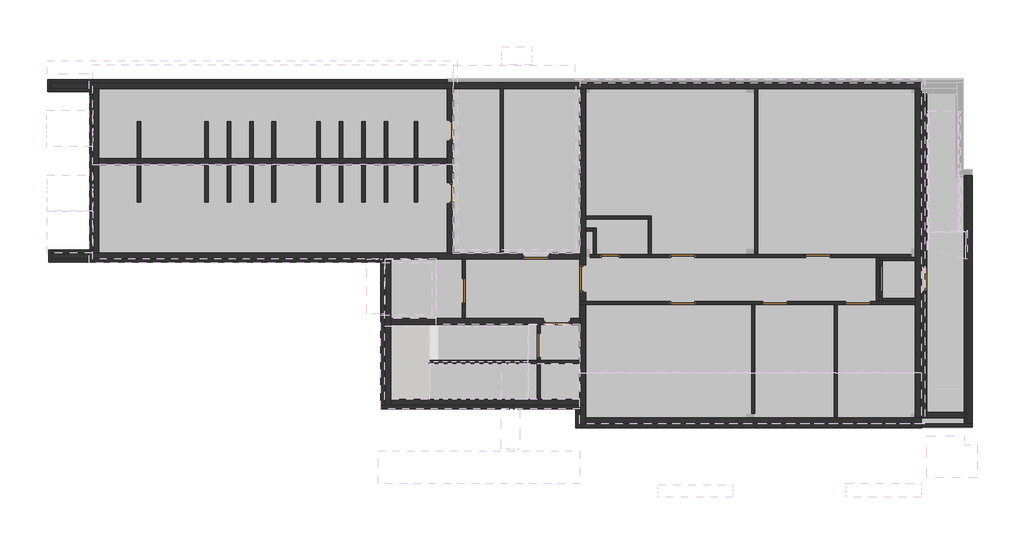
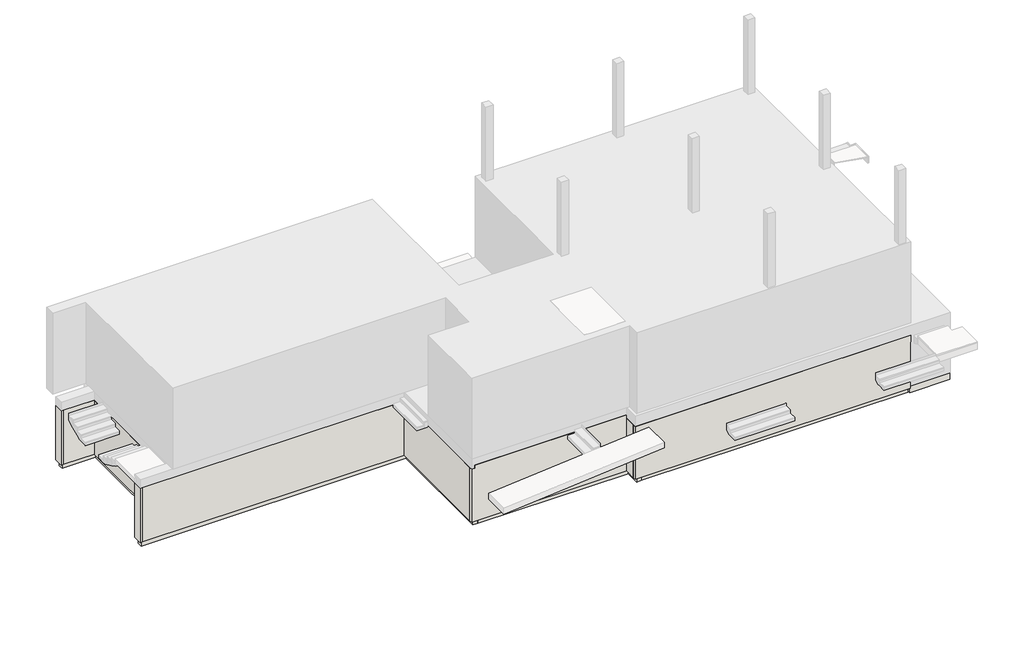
# One storey, part 1 of 3: 67 walls, 15 doors.
"""IFC4 building model written with IfcOpenShell, lengths in millimetres."""

from ifc_helpers import new_model, si_unit, frame, origin, place, context, project, spatial, polyline, outline, extrude, faceted_brep, transform, mapped, element, save
from components import door_13706d25, door_4d77744a, door_4864a00c, door_8b928317, door_d1c1a40c, door_2d09e85e, door_987bade7, door_4a9ce748

model = new_model("IFC4")

# Units and contexts
model_context = context("Model", 3, world=origin())
ifc_project = project(units=[si_unit("LENGTHUNIT", "METRE", prefix="MILLI")], contexts=[model_context])

# Site, building, storey
site = spatial("IfcSite", under=ifc_project)
building = spatial("IfcBuilding", under=site)
storey = spatial("IfcBuildingStorey", under=building, Name="Этаж -1", Elevation=-2700.0)

# Doors
placement = place(None, origin())
door_shape = door_13706d25(model_context)
element("IfcDoor", 1, ObjectType="(Dr)_ДУ(распашная)_1Ст_Прямоугольная : (Вн)_ДГ(0.92х2.1(h))", at=placement, inside=storey, context=model_context, shape_type="MappedRepresentation", body=[
    mapped(door_shape, transform((16170.0, 4019.9999983, -2700.0), x_axis=(0.0, 1.0, 0.0), y_axis=(-1.0, 0.0, 0.0), z_axis=(0.0, 0.0, 1.0))),
])
door_2_shape = door_4d77744a(model_context)
element("IfcDoor", 2, ObjectType="(Dr)_ДУ(распашная)_1Ст_Прямоугольная : (Вн)_ДГ(0.91х2.1(h))", at=placement, inside=storey, context=model_context, shape_type="MappedRepresentation", body=[
    mapped(door_2_shape, transform((14700.291724, 1798.9755306, -2700.0), x_axis=(0.0, 1.0, 0.0), y_axis=(-1.0, 0.0, 0.0), z_axis=(0.0, 0.0, 1.0))),
])
door_3_shape = door_4864a00c(model_context)
element("IfcDoor", 3, ObjectType="(Dr)_ДУ(распашная)_1Ст_Прямоугольная : (Вн)_ДГ(0.7х2.1(h))", at=placement, inside=storey, context=model_context, shape_type="MappedRepresentation", body=[
    mapped(door_3_shape, transform((11750.0, 8985.0, -2700.0), x_axis=(0.0, -1.0, 0.0), y_axis=(1.0, 0.0, 0.0), z_axis=(0.0, 0.0, 1.0))),
])
element("IfcDoor", 4, ObjectType="(Dr)_ДУ(распашная)_1Ст_Прямоугольная : (Вн)_ДГ(0.7х2.1(h))", at=placement, inside=storey, context=model_context, shape_type="MappedRepresentation", body=[
    mapped(door_3_shape, transform((11750.0, 6885.0, -2700.0), x_axis=(0.0, -1.0, 0.0), y_axis=(1.0, 0.0, 0.0), z_axis=(0.0, 0.0, 1.0))),
])
door_4_shape = door_8b928317(model_context)
element("IfcDoor", 5, ObjectType="(Dr)_ДУ(распашная)_1Ст_Прямоугольная : (Вн)_ДГ(0.92х2.1(h))", at=placement, inside=storey, context=model_context, shape_type="MappedRepresentation", body=[
    mapped(door_4_shape, transform((14610.0000393, 4780.0, -2700.0), x_axis=(-1.0, 0.0, 0.0), y_axis=(0.0, -1.0, 0.0), z_axis=(0.0, 0.0, 1.0))),
])
element("IfcDoor", 6, ObjectType="(Dr)_ДУ(распашная)_1Ст_Прямоугольная : (Вн)_ДГ(0.92х2.1(h))", at=placement, inside=storey, context=model_context, shape_type="MappedRepresentation", body=[
    mapped(door_4_shape, transform((15310.0, 2600.0, -2700.0), x_axis=(-1.0, 0.0, 0.0), y_axis=(0.0, -1.0, 0.0), z_axis=(0.0, 0.0, 1.0))),
])
door_5_shape = door_d1c1a40c(model_context)
element("IfcDoor", 7, ObjectType="(Dr)_ДУ(распашная)_1Ст_Прямоугольная : (Вн)_ДГ(0.91х2.1(h))", at=placement, inside=storey, context=model_context, shape_type="MappedRepresentation", body=[
    mapped(door_5_shape, transform((19505.1167243, 4780.0000004, -2700.0), x_axis=(1.0, 0.0, 0.0), y_axis=(0.0, 1.0, 0.0), z_axis=(0.0, 0.0, 1.0))),
])
element("IfcDoor", 8, ObjectType="(Dr)_ДУ(распашная)_1Ст_Прямоугольная : (Вн)_ДГ(0.91х2.1(h))", at=placement, inside=storey, context=model_context, shape_type="MappedRepresentation", body=[
    mapped(door_2_shape, transform((22589.9990554, 3219.9999994, -2700.0), x_axis=(-1.0, 0.0, 0.0), y_axis=(0.0, -1.0, 0.0), z_axis=(0.0, 0.0, 1.0))),
])
element("IfcDoor", 9, ObjectType="(Dr)_ДУ(распашная)_1Ст_Прямоугольная : (Вн)_ДГ(0.91х2.1(h))", at=placement, inside=storey, context=model_context, shape_type="MappedRepresentation", body=[
    mapped(door_2_shape, transform((25360.0, 3219.9999994, -2700.0), x_axis=(-1.0, 0.0, 0.0), y_axis=(0.0, -1.0, 0.0), z_axis=(0.0, 0.0, 1.0))),
])
element("IfcDoor", 10, ObjectType="(Dr)_ДУ(распашная)_1Ст_Прямоугольная : (Вн)_ДГ(0.91х2.1(h))", at=placement, inside=storey, context=model_context, shape_type="MappedRepresentation", body=[
    mapped(door_2_shape, transform((19505.1167243, 3219.9999994, -2700.0), x_axis=(-1.0, 0.0, 0.0), y_axis=(0.0, -1.0, 0.0), z_axis=(0.0, 0.0, 1.0))),
])
element("IfcDoor", 11, ObjectType="(Dr)_ДУ(распашная)_1Ст_Прямоугольная : (Вн)_ДГ(0.91х2.1(h))", at=placement, inside=storey, context=model_context, shape_type="MappedRepresentation", body=[
    mapped(door_2_shape, transform((24025.1167243, 4780.0000004, -2700.0), x_axis=(1.0, 0.0, 0.0), y_axis=(0.0, 1.0, 0.0), z_axis=(0.0, 0.0, 1.0))),
])
element("IfcDoor", 12, ObjectType="(Dr)_ДУ(распашная)_1Ст_Прямоугольная : (Вн)_ДГ(0.91х2.1(h))", at=placement, inside=storey, context=model_context, shape_type="MappedRepresentation", body=[
    mapped(door_2_shape, transform((12201.0801097, 3625.0, -2700.0), x_axis=(0.0, -1.0, 0.0), y_axis=(1.0, 0.0, 0.0), z_axis=(0.0, 0.0, 1.0))),
])
door_6_shape = door_2d09e85e(model_context)
element("IfcDoor", 13, ObjectType="(Dr)_ДУ(распашная)_1Ст_Прямоугольная : (Нр)_ДГ(0.89х2.1(h))", at=placement, inside=storey, context=model_context, shape_type="MappedRepresentation", body=[
    mapped(door_6_shape, transform((27559.9990278, 4019.9999671, -2700.0), x_axis=(0.0, -1.0, 0.0), y_axis=(1.0, 0.0, 0.0), z_axis=(0.0, 0.0, 1.0))),
])
door_7_shape = door_987bade7(model_context)
element("IfcDoor", 14, ObjectType="(Dr)_ДУ(распашная)_1Ст_Прямоугольная : (Вн)_ДГ(0.92х2.1(h))", at=placement, inside=storey, context=model_context, shape_type="MappedRepresentation", body=[
    mapped(door_7_shape, transform((26120.0, 4020.0, -2700.0), x_axis=(0.0, -1.0, 0.0), y_axis=(1.0, 0.0, 0.0), z_axis=(0.0, 0.0, 1.0))),
])
door_8_shape = door_4a9ce748(model_context)
element("IfcDoor", 15, ObjectType="(Dr)_ДУ(распашная)_1Ст_Прямоугольная : (Вн)_ДГ(0.7х2.1(h))", at=placement, inside=storey, context=model_context, shape_type="MappedRepresentation", body=[
    mapped(door_8_shape, transform((17090.0000523, 4780.0000004, -2700.0), x_axis=(1.0, 0.0, 0.0), y_axis=(0.0, 1.0, 0.0), z_axis=(0.0, 0.0, 1.0))),
])

# Walls
element("IfcWall", 16, ObjectType="(Нр).(Ут-100)", at=placement, inside=storey, context=model_context, shape_type="Brep", body=[
    faceted_brep([(-200.0, 10380.0000008, -2800.0), (-1599.9999755, 10380.0000008, -2800.0), (-1599.9999755, 10380.0000008, -400.0), (-200.0, 10380.0000008, -400.0), (-200.0, 10280.0000008, -2800.0), (-200.0, 10280.0000008, -400.0), (-300.0, 10280.0000008, -400.0), (-1599.9999755, 10280.0000008, -400.0), (-1599.9999755, 10280.0000008, -2800.0), (-300.0, 10280.0000008, -2800.0)], [[[0, 1, 2, 3]], [[4, 5, 6, 7, 8, 9]], [[1, 0, 4, 9, 8]], [[3, 2, 7, 6, 5]], [[2, 1, 8, 7]], [[0, 3, 5, 4]]]),
])
element("IfcWall", 17, ObjectType="(Нр).(Ут-100)", at=placement, inside=storey, context=model_context, shape_type="Brep", body=[
    faceted_brep([(-1599.9999755, 10280.0000008, -2800.0), (-1599.9999755, 10380.0000008, -2800.0), (-1599.9999755, 10580.0000008, -2800.0), (-1599.9999755, 10680.0000008, -2800.0), (-1599.9999755, 10680.0000008, -400.0), (-1599.9999755, 10580.0000008, -400.0), (-1599.9999755, 10380.0000008, -400.0), (-1599.9999755, 10280.0000008, -400.0), (-1699.9999755, 10280.0000008, -2800.0), (-1699.9999755, 10280.0000008, -400.0), (-1699.9999755, 10680.0000008, -400.0), (-1699.9999755, 10680.0000008, -2800.0)], [[[0, 1, 2, 3, 4, 5, 6, 7]], [[8, 9, 10, 11]], [[3, 2, 1, 0, 8, 11]], [[7, 6, 5, 4, 10, 9]], [[0, 7, 9, 8]], [[4, 3, 11, 10]]]),
])
element("IfcWall", 18, ObjectType="(Нр).(Ут-100)", at=placement, inside=storey, context=model_context, shape_type="SweptSolid", body=[
    extrude(outline(polyline([(11650.0, 10580.0000008), (-1599.9999755, 10580.0000008), (-1599.9999755, 10680.0000008), (11650.0, 10680.0000008), (11650.0, 10580.0000008)])), frame((0.0, 0.0, -2800.0), z_axis=(0.0, 0.0, 1.0), x_axis=(1.0, 0.0, 0.0)), (0.0, 0.0, 1.0), 2400.0),
])
element("IfcWall", 19, ObjectType="(Нр).(Ут-100)", at=placement, inside=storey, context=model_context, shape_type="SweptSolid", body=[
    extrude(outline(polyline([(-1569.8806043, 4680.0), (9550.291724, 4680.0), (9420.291724, 4580.0), (-1569.8806043, 4580.0), (-1569.8806043, 4680.0)])), frame((0.0, 0.0, -2800.0), z_axis=(0.0, 0.0, 1.0), x_axis=(1.0, 0.0, 0.0)), (0.0, 0.0, 1.0), 2400.0),
])
element("IfcWall", 20, ObjectType="(Нр).(Ут-100)", at=placement, inside=storey, context=model_context, shape_type="Brep", body=[
    faceted_brep([(-1569.8806043, 4580.0, -2800.0), (-1569.8806043, 4680.0, -2800.0), (-1569.8806043, 4880.0, -2800.0), (-1569.8806043, 4980.0, -2800.0), (-1569.8806043, 4980.0, -400.0), (-1569.8806043, 4880.0, -400.0), (-1569.8806043, 4680.0, -400.0), (-1569.8806043, 4580.0, -400.0), (-1669.8806043, 4580.0, -2800.0), (-1669.8806043, 4580.0, -400.0), (-1669.8806043, 4980.0, -400.0), (-1669.8806043, 4980.0, -2800.0)], [[[0, 1, 2, 3, 4, 5, 6, 7]], [[8, 9, 10, 11]], [[3, 2, 1, 0, 8, 11]], [[7, 6, 5, 4, 10, 9]], [[0, 7, 9, 8]], [[4, 3, 11, 10]]]),
])
element("IfcWall", 21, ObjectType="(Нр).(Ут-100)", at=placement, inside=storey, context=model_context, shape_type="Brep", body=[
    faceted_brep([(-1569.8806043, 4880.0, -2800.0), (-200.0, 4880.0, -2800.0), (-200.0, 4880.0, -400.0), (-1569.8806043, 4880.0, -400.0), (-1569.8806043, 4980.0, -2800.0), (-1569.8806043, 4980.0, -400.0), (-300.0, 4980.0, -400.0), (-200.0, 4980.0, -400.0), (-200.0, 4980.0, -2800.0), (-300.0, 4980.0, -2800.0)], [[[0, 1, 2, 3]], [[4, 5, 6, 7, 8, 9]], [[1, 0, 4, 9, 8]], [[3, 2, 7, 6, 5]], [[0, 3, 5, 4]], [[2, 1, 8, 7]]]),
])
element("IfcWall", 22, ObjectType="(Нр).(Ут-100)", at=placement, inside=storey, context=model_context, shape_type="SweptSolid", body=[
    extrude(outline(polyline([(-200.0, 10280.0000008), (-200.0, 4980.0), (-300.0, 4980.0), (-300.0, 10280.0000008), (-200.0, 10280.0000008)])), frame((0.0, 0.0, -2800.0), z_axis=(0.0, 0.0, 1.0), x_axis=(1.0, 0.0, 0.0)), (0.0, 0.0, 1.0), 2400.0),
])
element("IfcWall", 23, ObjectType="(Нр).(Ут-130)", at=placement, inside=storey, context=model_context, shape_type="Brep", body=[
    faceted_brep([(27492.4990554, -820.0, -2800.0), (16070.0, -820.0, -2800.0), (15940.0, -820.0, -2800.0), (15940.0, -820.0, -450.0), (16070.0, -820.0, -450.0), (27514.9990554, -820.0, -450.0), (27514.9990554, -820.0, -730.0), (27492.4990554, -820.0, -730.0), (27492.4990554, -950.0, -2800.0), (27492.4990554, -950.0, -730.0), (27514.9990554, -950.0, -730.0), (27514.9990554, -950.0, -450.0), (15940.0, -950.0, -450.0), (15940.0, -950.0, -2800.0)], [[[0, 1, 2, 3, 4, 5, 6, 7]], [[8, 9, 10, 11, 12, 13]], [[2, 1, 0, 8, 13]], [[5, 4, 3, 12, 11]], [[3, 2, 13, 12]], [[0, 7, 9, 8]], [[6, 10, 9, 7]], [[6, 5, 11, 10]]]),
])
element("IfcWall", 24, ObjectType="(Нр).(Ут-130)", at=placement, inside=storey, context=model_context, shape_type="Brep", body=[
    faceted_brep([(16070.0, -820.0, -2800.0), (16070.0, -200.0, -2800.0), (16070.0, -200.0, -450.0), (16070.0, -820.0, -450.0), (15940.0, -820.0, -2800.0), (15940.0, -820.0, -450.0), (15940.0, -200.0, -450.0), (15940.0, -200.0, -2800.0), (15940.0, -330.0, -2800.0)], [[[0, 1, 2, 3]], [[4, 5, 6, 7, 8]], [[1, 0, 4, 8, 7]], [[3, 2, 6, 5]], [[0, 3, 5, 4]], [[2, 1, 7, 6]]]),
])
element("IfcWall", 25, ObjectType="(Нр).(Ут-130)", at=placement, inside=storey, context=model_context, shape_type="Brep", body=[
    faceted_brep([(15940.0, -200.0, -2800.0), (9550.291724, -200.0, -2800.0), (9420.291724, -200.0, -2800.0), (9420.291724, -200.0, -450.0), (9550.291724, -200.0, -450.0), (9550.291724, -200.0, -300.0), (15940.0, -200.0, -300.0), (15940.0, -200.0, -450.0), (15940.0, -330.0, -2800.0), (15940.0, -330.0, -300.0), (9550.291724, -330.0, -300.0), (9550.291724, -330.0, -450.0), (9420.291724, -330.0, -450.0), (9420.291724, -330.0, -2800.0)], [[[0, 1, 2, 3, 4, 5, 6, 7]], [[8, 9, 10, 11, 12, 13]], [[2, 1, 0, 8, 13]], [[6, 5, 10, 9]], [[0, 7, 6, 9, 8]], [[3, 2, 13, 12]], [[5, 4, 11, 10]], [[11, 4, 3, 12]]]),
])
element("IfcWall", 26, ObjectType="(Нр).(Ут-130)", at=placement, inside=storey, context=model_context, shape_type="SweptSolid", body=[
    extrude(outline(polyline([(9550.291724, 4680.0), (9550.291724, -200.0), (9420.291724, -200.0), (9420.291724, 4580.0), (9550.291724, 4680.0)])), frame((0.0, 0.0, -2800.0), z_axis=(0.0, 0.0, 1.0), x_axis=(1.0, 0.0, 0.0)), (0.0, 0.0, 1.0), 2350.0),
])
element("IfcWall", 27, ObjectType="(Нр).(Ут-100)", at=placement, inside=storey, context=model_context, shape_type="Brep", body=[
    faceted_brep([(27269.9990554, 4730.0000004, -3000.0), (26070.0, 4730.0000004, -3000.0), (26070.0, 4730.0000004, -300.0), (27269.9990554, 4730.0000004, -300.0), (27269.9990554, 4630.0000004, -3000.0), (27269.9990554, 4630.0000004, -300.0), (26170.0, 4630.0000004, -300.0), (26070.0, 4630.0000004, -300.0), (26070.0, 4630.0000004, -3000.0), (26170.0, 4630.0000004, -3000.0)], [[[0, 1, 2, 3]], [[4, 5, 6, 7, 8, 9]], [[1, 0, 4, 9, 8]], [[3, 2, 7, 6, 5]], [[2, 1, 8, 7]], [[0, 3, 5, 4]]]),
])
element("IfcWall", 28, ObjectType="(Нр).(Ут-100)", at=placement, inside=storey, context=model_context, shape_type="Brep", body=[
    faceted_brep([(26070.0, 4630.0000004, -3000.0), (26070.0, 3269.9999994, -3000.0), (26070.0, 3269.9999994, -300.0), (26070.0, 4630.0000004, -300.0), (26070.0, 3560.0, -600.0), (26070.0, 3560.0, -2700.0), (26070.0, 4480.0, -2700.0), (26070.0, 4480.0, -600.0), (26170.0, 3269.9999994, -3000.0), (26170.0, 3369.9999994, -3000.0), (26170.0, 4630.0000004, -3000.0), (26170.0, 4630.0000004, -300.0), (26170.0, 3369.9999994, -300.0), (26170.0, 3269.9999994, -300.0), (26170.0, 3560.0, -2700.0), (26170.0, 3560.0, -600.0), (26170.0, 4480.0, -600.0), (26170.0, 4480.0, -2700.0)], [[[0, 1, 2, 3], [4, 5, 6, 7]], [[8, 9, 10, 11, 12, 13], [14, 15, 16, 17]], [[1, 0, 10, 9, 8]], [[3, 2, 13, 12, 11]], [[2, 1, 8, 13]], [[0, 3, 11, 10]], [[14, 5, 4, 15]], [[15, 4, 7, 16]], [[16, 7, 6, 17]], [[5, 14, 17, 6]]]),
])
element("IfcWall", 29, ObjectType="(Нр).(Ут-100)", at=placement, inside=storey, context=model_context, shape_type="SweptSolid", body=[
    extrude(outline(polyline([(27269.9990554, 3269.9999994), (26170.0, 3269.9999994), (26170.0, 3369.9999994), (27269.9990554, 3369.9999994), (27269.9990554, 3269.9999994)])), frame((0.0, 0.0, -3000.0), z_axis=(0.0, 0.0, 1.0), x_axis=(1.0, 0.0, 0.0)), (0.0, 0.0, 1.0), 2700.0),
])
element("IfcWall", 30, ObjectType="(Нр).(Ут-100)", at=placement, inside=storey, context=model_context, shape_type="SweptSolid", body=[
    extrude(outline(polyline([(27492.4990554, -820.0), (29169.9999881, -820.0), (29169.9999881, -920.0), (27492.4990554, -920.0), (27492.4990554, -820.0)])), frame((0.0, 0.0, -3000.0), z_axis=(0.0, 0.0, 1.0), x_axis=(1.0, 0.0, 0.0)), (0.0, 0.0, 1.0), 2070.0),
])
element("IfcWall", 31, ObjectType="(Вн).(Пг-100)", at=placement, inside=storey, context=model_context, shape_type="SweptSolid", body=[
    extrude(outline(polyline([(13413.779901, 4880.0), (13413.779901, 10380.0000008), (13513.779901, 10380.0000008), (13513.779901, 4880.0), (13413.779901, 4880.0)])), frame((0.0, 0.0, -3000.0), z_axis=(0.0, 0.0, 1.0), x_axis=(1.0, 0.0, 0.0)), (0.0, 0.0, 1.0), 2700.0),
])
element("IfcWall", 32, ObjectType="(Вн).(Пг-100)", at=placement, inside=storey, context=model_context, shape_type="Brep", body=[
    faceted_brep([(16270.0, 6029.9999983, -3000.0), (18350.0000523, 6029.9999983, -3000.0), (18450.0000523, 6029.9999983, -3000.0), (18450.0000523, 6029.9999983, -300.0), (18350.0000523, 6029.9999983, -300.0), (16270.0, 6029.9999983, -300.0), (16270.0, 6129.9999983, -3000.0), (16270.0, 6129.9999983, -300.0), (18450.0000523, 6129.9999983, -300.0), (18450.0000523, 6129.9999983, -3000.0)], [[[0, 1, 2, 3, 4, 5]], [[6, 7, 8, 9]], [[2, 1, 0, 6, 9]], [[5, 4, 3, 8, 7]], [[3, 2, 9, 8]], [[0, 5, 7, 6]]]),
])
element("IfcWall", 33, ObjectType="(Вн).(Пг-100)", at=placement, inside=storey, context=model_context, shape_type="SweptSolid", body=[
    extrude(outline(polyline([(18350.0000523, 4830.0000004), (18350.0000523, 6029.9999983), (18450.0000523, 6029.9999983), (18450.0000523, 4830.0000004), (18350.0000523, 4830.0000004)])), frame((0.0, 0.0, -3000.0), z_axis=(0.0, 0.0, 1.0), x_axis=(1.0, 0.0, 0.0)), (0.0, 0.0, 1.0), 2700.0),
])
element("IfcWall", 34, ObjectType="(Вн).(Пг-100)", at=placement, inside=storey, context=model_context, shape_type="Brep", body=[
    faceted_brep([(27119.9990554, 4830.0000004, -3000.0), (22019.9990554, 4830.0000004, -3000.0), (21919.9990554, 4830.0000004, -3000.0), (18450.0000523, 4830.0000004, -3000.0), (18350.0000523, 4830.0000004, -3000.0), (16620.0013842, 4830.0000004, -3000.0), (16520.0013842, 4830.0000004, -3000.0), (16420.0, 4830.0000004, -3000.0), (16420.0, 4830.0000004, -300.0), (16520.0013842, 4830.0000004, -300.0), (16620.0013842, 4830.0000004, -300.0), (18350.0000523, 4830.0000004, -300.0), (18450.0000523, 4830.0000004, -300.0), (21919.9990554, 4830.0000004, -300.0), (22019.9990554, 4830.0000004, -300.0), (27119.9990554, 4830.0000004, -300.0), (19960.1167243, 4830.0000004, -2700.0), (19960.1167243, 4830.0000004, -600.0), (19050.1167243, 4830.0000004, -600.0), (19050.1167243, 4830.0000004, -2700.0), (24480.1167243, 4830.0000004, -2700.0), (24480.1167243, 4830.0000004, -600.0), (23570.1167243, 4830.0000004, -600.0), (23570.1167243, 4830.0000004, -2700.0), (17440.0000523, 4830.0000004, -2700.0), (17440.0000523, 4830.0000004, -600.0), (16740.0000523, 4830.0000004, -600.0), (16740.0000523, 4830.0000004, -2700.0), (16420.0, 4730.0000004, -3000.0), (25970.0, 4730.0000004, -3000.0), (26070.0, 4730.0000004, -3000.0), (27119.9990554, 4730.0000004, -3000.0), (27119.9990554, 4730.0000004, -300.0), (26070.0, 4730.0000004, -300.0), (25970.0, 4730.0000004, -300.0), (16420.0, 4730.0000004, -300.0), (19960.1167243, 4730.0000004, -600.0), (19960.1167243, 4730.0000004, -2700.0), (19050.1167243, 4730.0000004, -2700.0), (19050.1167243, 4730.0000004, -600.0), (24480.1167243, 4730.0000004, -600.0), (24480.1167243, 4730.0000004, -2700.0), (23570.1167243, 4730.0000004, -2700.0), (23570.1167243, 4730.0000004, -600.0), (17440.0000523, 4730.0000004, -600.0), (17440.0000523, 4730.0000004, -2700.0), (16740.0000523, 4730.0000004, -2700.0), (16740.0000523, 4730.0000004, -600.0)], [[[0, 1, 2, 3, 4, 5, 6, 7, 8, 9, 10, 11, 12, 13, 14, 15], [16, 17, 18, 19], [20, 21, 22, 23], [24, 25, 26, 27]], [[28, 29, 30, 31, 32, 33, 34, 35], [36, 37, 38, 39], [40, 41, 42, 43], [44, 45, 46, 47]], [[7, 6, 5, 4, 3, 2, 1, 0, 31, 30, 29, 28]], [[8, 7, 28, 35]], [[15, 14, 13, 12, 11, 10, 9, 8, 35, 34, 33, 32]], [[0, 15, 32, 31]], [[16, 37, 36, 17]], [[17, 36, 39, 18]], [[18, 39, 38, 19]], [[37, 16, 19, 38]], [[20, 41, 40, 21]], [[21, 40, 43, 22]], [[42, 23, 22, 43]], [[41, 20, 23, 42]], [[24, 45, 44, 25]], [[25, 44, 47, 26]], [[46, 27, 26, 47]], [[45, 24, 27, 46]]]),
])
element("IfcWall", 35, ObjectType="(Вн).(Пг-100)", at=placement, inside=storey, context=model_context, shape_type="Brep", body=[
    faceted_brep([(16620.0013842, 4830.0000004, -3000.0), (16620.0013842, 5730.0, -3000.0), (16620.0013842, 5730.0, -300.0), (16620.0013842, 4830.0000004, -300.0), (16520.0013842, 4830.0000004, -3000.0), (16520.0013842, 4830.0000004, -300.0), (16520.0013842, 5630.0, -300.0), (16520.0013842, 5730.0, -300.0), (16520.0013842, 5730.0, -3000.0), (16520.0013842, 5630.0, -3000.0)], [[[0, 1, 2, 3]], [[4, 5, 6, 7, 8, 9]], [[1, 0, 4, 9, 8]], [[3, 2, 7, 6, 5]], [[0, 3, 5, 4]], [[2, 1, 8, 7]]]),
])
element("IfcWall", 36, ObjectType="(Вн).(Пг-100)", at=placement, inside=storey, context=model_context, shape_type="SweptSolid", body=[
    extrude(outline(polyline([(16270.0, 5730.0), (16520.0013842, 5730.0), (16520.0013842, 5630.0), (16270.0, 5630.0), (16270.0, 5730.0)])), frame((0.0, 0.0, -3000.0), z_axis=(0.0, 0.0, 1.0), x_axis=(1.0, 0.0, 0.0)), (0.0, 0.0, 1.0), 2700.0),
])
element("IfcWall", 37, ObjectType="(Вн).(Пг-100)", at=placement, inside=storey, context=model_context, shape_type="SweptSolid", body=[
    extrude(outline(polyline([(22019.9990554, 10380.0000008), (22019.9990554, 4830.0000004), (21919.9990554, 4830.0000004), (21919.9990554, 10380.0000008), (22019.9990554, 10380.0000008)])), frame((0.0, 0.0, -3000.0), z_axis=(0.0, 0.0, 1.0), x_axis=(1.0, 0.0, 0.0)), (0.0, 0.0, 1.0), 2700.0),
])
element("IfcWall", 38, ObjectType="(Вн).(Пг-100)", at=placement, inside=storey, context=model_context, shape_type="SweptSolid", body=[
    extrude(outline(polyline([(26070.0, 4730.0000004), (26070.0, 3269.9999994), (25970.0, 3269.9999994), (25970.0, 4730.0000004), (26070.0, 4730.0000004)])), frame((0.0, 0.0, -3000.0), z_axis=(0.0, 0.0, 1.0), x_axis=(1.0, 0.0, 0.0)), (0.0, 0.0, 1.0), 2700.0),
])
element("IfcWall", 39, ObjectType="(Вн).(Пг-100)", at=placement, inside=storey, context=model_context, shape_type="Brep", body=[
    faceted_brep([(27269.9990554, 3269.9999994, -3000.0), (26070.0, 3269.9999994, -3000.0), (25970.0, 3269.9999994, -3000.0), (16070.0, 3269.9999994, -3000.0), (16070.0, 3269.9999994, -300.0), (25970.0, 3269.9999994, -300.0), (26070.0, 3269.9999994, -300.0), (27269.9990554, 3269.9999994, -300.0), (22134.9990554, 3269.9999994, -600.0), (22134.9990554, 3269.9999994, -2700.0), (23044.9990554, 3269.9999994, -2700.0), (23044.9990554, 3269.9999994, -600.0), (24905.0, 3269.9999994, -600.0), (24905.0, 3269.9999994, -2700.0), (25815.0, 3269.9999994, -2700.0), (25815.0, 3269.9999994, -600.0), (19050.1167243, 3269.9999994, -600.0), (19050.1167243, 3269.9999994, -2700.0), (19960.1167243, 3269.9999994, -2700.0), (19960.1167243, 3269.9999994, -600.0), (16070.0, 3169.9999994, -3000.0), (21819.9990554, 3169.9999994, -3000.0), (21919.9990554, 3169.9999994, -3000.0), (24570.0, 3169.9999994, -3000.0), (24670.0, 3169.9999994, -3000.0), (27269.9990554, 3169.9999994, -3000.0), (27269.9990554, 3169.9999994, -300.0), (24670.0, 3169.9999994, -300.0), (24570.0, 3169.9999994, -300.0), (21919.9990554, 3169.9999994, -300.0), (21819.9990554, 3169.9999994, -300.0), (16070.0, 3169.9999994, -300.0), (22134.9990554, 3169.9999994, -2700.0), (22134.9990554, 3169.9999994, -600.0), (23044.9990554, 3169.9999994, -600.0), (23044.9990554, 3169.9999994, -2700.0), (24905.0, 3169.9999994, -2700.0), (24905.0, 3169.9999994, -600.0), (25815.0, 3169.9999994, -600.0), (25815.0, 3169.9999994, -2700.0), (19050.1167243, 3169.9999994, -2700.0), (19050.1167243, 3169.9999994, -600.0), (19960.1167243, 3169.9999994, -600.0), (19960.1167243, 3169.9999994, -2700.0)], [[[0, 1, 2, 3, 4, 5, 6, 7], [8, 9, 10, 11], [12, 13, 14, 15], [16, 17, 18, 19]], [[20, 21, 22, 23, 24, 25, 26, 27, 28, 29, 30, 31], [32, 33, 34, 35], [36, 37, 38, 39], [40, 41, 42, 43]], [[3, 2, 1, 0, 25, 24, 23, 22, 21, 20]], [[7, 6, 5, 4, 31, 30, 29, 28, 27, 26]], [[32, 9, 8, 33]], [[33, 8, 11, 34]], [[34, 11, 10, 35]], [[9, 32, 35, 10]], [[36, 13, 12, 37]], [[37, 12, 15, 38]], [[14, 39, 38, 15]], [[13, 36, 39, 14]], [[40, 17, 16, 41]], [[41, 16, 19, 42]], [[18, 43, 42, 19]], [[17, 40, 43, 18]], [[0, 7, 26, 25]], [[4, 3, 20, 31]]]),
])
element("IfcWall", 40, ObjectType="(Вн).(Пг-100)", at=placement, inside=storey, context=model_context, shape_type="SweptSolid", body=[
    extrude(outline(polyline([(21819.9990554, -470.0), (21819.9990554, 3169.9999994), (21919.9990554, 3169.9999994), (21919.9990554, -470.0), (21819.9990554, -470.0)])), frame((0.0, 0.0, -3000.0), z_axis=(0.0, 0.0, 1.0), x_axis=(1.0, 0.0, 0.0)), (0.0, 0.0, 1.0), 2700.0),
])
element("IfcWall", 41, ObjectType="(Вн)_(Пг-100)", at=placement, inside=storey, context=model_context, shape_type="Brep", body=[
    faceted_brep([(14750.291724, 0.0, -2740.0), (14750.291724, 1200.2996937, -2740.0), (14750.291724, 1300.2996937, -2740.0), (14750.291724, 2500.0, -2740.0), (14750.291724, 2500.0, -300.0), (14750.291724, 1300.2996937, -300.0), (14750.291724, 1200.2996937, -300.0), (14750.291724, 0.0, -300.0), (14750.291724, 2253.9755306, -600.0), (14750.291724, 2253.9755306, -2700.0), (14750.291724, 1343.9755306, -2700.0), (14750.291724, 1343.9755306, -600.0), (14650.291724, 2500.0, -2740.0), (14650.291724, 1300.2996937, -2740.0), (14650.291724, 1200.2996937, -2740.0), (14650.291724, 0.0, -2740.0), (14650.291724, 0.0, -300.0), (14650.291724, 1200.2996937, -300.0), (14650.291724, 1300.2996937, -300.0), (14650.291724, 2500.0, -300.0), (14650.291724, 2253.9755306, -2700.0), (14650.291724, 2253.9755306, -600.0), (14650.291724, 1343.9755306, -600.0), (14650.291724, 1343.9755306, -2700.0)], [[[0, 1, 2, 3, 4, 5, 6, 7], [8, 9, 10, 11]], [[12, 13, 14, 15, 16, 17, 18, 19], [20, 21, 22, 23]], [[3, 2, 1, 0, 15, 14, 13, 12]], [[7, 6, 5, 4, 19, 18, 17, 16]], [[20, 9, 8, 21]], [[21, 8, 11, 22]], [[22, 11, 10, 23]], [[9, 20, 23, 10]], [[0, 7, 16, 15]], [[4, 3, 12, 19]]]),
])
element("IfcWall", 42, ObjectType="(Вн).(Пг-100)", at=placement, inside=storey, context=model_context, shape_type="SweptSolid", body=[
    extrude(outline(polyline([(11050.4645219, 1302.3727511), (14650.291724, 1302.3727511), (14650.291724, 1202.3727511), (11050.4645219, 1202.3727511), (11050.4645219, 1302.3727511)])), frame((0.0, 0.0, -3000.0), z_axis=(0.0, 0.0, 1.0), x_axis=(1.0, 0.0, 0.0)), (0.0, 0.0, 1.0), 2355.0),
])
element("IfcWall", 43, ObjectType="(Вн).(Пг-100)", at=placement, inside=storey, context=model_context, shape_type="SweptSolid", body=[
    extrude(outline(polyline([(4680.0, -3000.0), (2700.0, -3000.0), (2700.0, -300.0), (4680.0, -300.0), (4680.0, -3000.0)]), holes=[polyline([(3170.0, -600.0), (3170.0, -2700.0), (4080.0, -2700.0), (4080.0, -600.0), (3170.0, -600.0)])]), frame((12151.0801097, 0.0, 0.0), z_axis=(1.0, 0.0, 0.0), x_axis=(0.0, 1.0, 0.0)), (0.0, 0.0, 1.0), 100.0),
])
element("IfcWall", 44, ObjectType="(Вн).(К-120)", at=placement, inside=storey, context=model_context, shape_type="SweptSolid", body=[
    extrude(outline(polyline([(10660.0, 9285.0002276), (10660.0, 8035.0), (10540.0, 8035.0), (10540.0, 9285.0002276), (10660.0, 9285.0002276)])), frame((0.0, 0.0, -3040.0), z_axis=(0.0, 0.0, 1.0), x_axis=(1.0, 0.0, 0.0)), (0.0, 0.0, 1.0), 2740.0),
])
element("IfcWall", 45, ObjectType="(Вн).(К-120)", at=placement, inside=storey, context=model_context, shape_type="SweptSolid", body=[
    extrude(outline(polyline([(9660.1925321, 9285.0002276), (9660.1925321, 8035.0), (9540.1925321, 8035.0), (9540.1925321, 9285.0002276), (9660.1925321, 9285.0002276)])), frame((0.0, 0.0, -3040.0), z_axis=(0.0, 0.0, 1.0), x_axis=(1.0, 0.0, 0.0)), (0.0, 0.0, 1.0), 2740.0),
])
element("IfcWall", 46, ObjectType="(Вн).(К-120)", at=placement, inside=storey, context=model_context, shape_type="SweptSolid", body=[
    extrude(outline(polyline([(10540.0, 6585.0002276), (10540.0, 7835.0), (10660.0, 7835.0), (10660.0, 6585.0002276), (10540.0, 6585.0002276)])), frame((0.0, 0.0, -3040.0), z_axis=(0.0, 0.0, 1.0), x_axis=(1.0, 0.0, 0.0)), (0.0, 0.0, 1.0), 2740.0),
])
element("IfcWall", 47, ObjectType="(Вн).(К-120)", at=placement, inside=storey, context=model_context, shape_type="SweptSolid", body=[
    extrude(outline(polyline([(9540.1925321, 6585.0002276), (9540.1925321, 7835.0), (9660.1925321, 7835.0), (9660.1925321, 6585.0002276), (9540.1925321, 6585.0002276)])), frame((0.0, 0.0, -3040.0), z_axis=(0.0, 0.0, 1.0), x_axis=(1.0, 0.0, 0.0)), (0.0, 0.0, 1.0), 2740.0),
])
element("IfcWall", 48, ObjectType="(Вн).(К-120)", at=placement, inside=storey, context=model_context, shape_type="SweptSolid", body=[
    extrude(outline(polyline([(8910.1925321, 9285.0002276), (8910.1925321, 8035.0), (8790.1925321, 8035.0), (8790.1925321, 9285.0002276), (8910.1925321, 9285.0002276)])), frame((0.0, 0.0, -3040.0), z_axis=(0.0, 0.0, 1.0), x_axis=(1.0, 0.0, 0.0)), (0.0, 0.0, 1.0), 2740.0),
])
element("IfcWall", 49, ObjectType="(Вн).(К-120)", at=placement, inside=storey, context=model_context, shape_type="SweptSolid", body=[
    extrude(outline(polyline([(8790.1925321, 6585.0002276), (8790.1925321, 7835.0), (8910.1925321, 7835.0), (8910.1925321, 6585.0002276), (8790.1925321, 6585.0002276)])), frame((0.0, 0.0, -3040.0), z_axis=(0.0, 0.0, 1.0), x_axis=(1.0, 0.0, 0.0)), (0.0, 0.0, 1.0), 2740.0),
])
element("IfcWall", 50, ObjectType="(Вн).(К-120)", at=placement, inside=storey, context=model_context, shape_type="SweptSolid", body=[
    extrude(outline(polyline([(8160.1925321, 9285.0002276), (8160.1925321, 8035.0), (8040.1925321, 8035.0), (8040.1925321, 9285.0002276), (8160.1925321, 9285.0002276)])), frame((0.0, 0.0, -3040.0), z_axis=(0.0, 0.0, 1.0), x_axis=(1.0, 0.0, 0.0)), (0.0, 0.0, 1.0), 2740.0),
])
element("IfcWall", 51, ObjectType="(Вн).(К-120)", at=placement, inside=storey, context=model_context, shape_type="SweptSolid", body=[
    extrude(outline(polyline([(8040.1925321, 6585.0002276), (8040.1925321, 7835.0), (8160.1925321, 7835.0), (8160.1925321, 6585.0002276), (8040.1925321, 6585.0002276)])), frame((0.0, 0.0, -3040.0), z_axis=(0.0, 0.0, 1.0), x_axis=(1.0, 0.0, 0.0)), (0.0, 0.0, 1.0), 2740.0),
])
element("IfcWall", 52, ObjectType="(Вн).(К-120)", at=placement, inside=storey, context=model_context, shape_type="SweptSolid", body=[
    extrude(outline(polyline([(7410.1925321, 9285.0002276), (7410.1925321, 8035.0), (7290.1925321, 8035.0), (7290.1925321, 9285.0002276), (7410.1925321, 9285.0002276)])), frame((0.0, 0.0, -3040.0), z_axis=(0.0, 0.0, 1.0), x_axis=(1.0, 0.0, 0.0)), (0.0, 0.0, 1.0), 2740.0),
])
element("IfcWall", 53, ObjectType="(Вн).(К-120)", at=placement, inside=storey, context=model_context, shape_type="SweptSolid", body=[
    extrude(outline(polyline([(7290.1925321, 6585.0002276), (7290.1925321, 7835.0), (7410.1925321, 7835.0), (7410.1925321, 6585.0002276), (7290.1925321, 6585.0002276)])), frame((0.0, 0.0, -3040.0), z_axis=(0.0, 0.0, 1.0), x_axis=(1.0, 0.0, 0.0)), (0.0, 0.0, 1.0), 2740.0),
])
element("IfcWall", 54, ObjectType="(Вн).(К-120)", at=placement, inside=storey, context=model_context, shape_type="SweptSolid", body=[
    extrude(outline(polyline([(5910.1925321, 9285.0002276), (5910.1925321, 8035.0), (5790.1925321, 8035.0), (5790.1925321, 9285.0002276), (5910.1925321, 9285.0002276)])), frame((0.0, 0.0, -3040.0), z_axis=(0.0, 0.0, 1.0), x_axis=(1.0, 0.0, 0.0)), (0.0, 0.0, 1.0), 2740.0),
])
element("IfcWall", 55, ObjectType="(Вн).(К-120)", at=placement, inside=storey, context=model_context, shape_type="SweptSolid", body=[
    extrude(outline(polyline([(5790.1925321, 6585.0002276), (5790.1925321, 7835.0), (5910.1925321, 7835.0), (5910.1925321, 6585.0002276), (5790.1925321, 6585.0002276)])), frame((0.0, 0.0, -3040.0), z_axis=(0.0, 0.0, 1.0), x_axis=(1.0, 0.0, 0.0)), (0.0, 0.0, 1.0), 2740.0),
])
element("IfcWall", 56, ObjectType="(Вн).(К-120)", at=placement, inside=storey, context=model_context, shape_type="SweptSolid", body=[
    extrude(outline(polyline([(5160.1925321, 9285.0002276), (5160.1925321, 8035.0), (5040.1925321, 8035.0), (5040.1925321, 9285.0002276), (5160.1925321, 9285.0002276)])), frame((0.0, 0.0, -3040.0), z_axis=(0.0, 0.0, 1.0), x_axis=(1.0, 0.0, 0.0)), (0.0, 0.0, 1.0), 2740.0),
])
element("IfcWall", 57, ObjectType="(Вн).(К-120)", at=placement, inside=storey, context=model_context, shape_type="SweptSolid", body=[
    extrude(outline(polyline([(5040.1925321, 6585.0002276), (5040.1925321, 7835.0), (5160.1925321, 7835.0), (5160.1925321, 6585.0002276), (5040.1925321, 6585.0002276)])), frame((0.0, 0.0, -3040.0), z_axis=(0.0, 0.0, 1.0), x_axis=(1.0, 0.0, 0.0)), (0.0, 0.0, 1.0), 2740.0),
])
element("IfcWall", 58, ObjectType="(Вн).(К-120)", at=placement, inside=storey, context=model_context, shape_type="SweptSolid", body=[
    extrude(outline(polyline([(4410.1925321, 9285.0002276), (4410.1925321, 8035.0), (4290.1925321, 8035.0), (4290.1925321, 9285.0002276), (4410.1925321, 9285.0002276)])), frame((0.0, 0.0, -3040.0), z_axis=(0.0, 0.0, 1.0), x_axis=(1.0, 0.0, 0.0)), (0.0, 0.0, 1.0), 2740.0),
])
element("IfcWall", 59, ObjectType="(Вн).(К-120)", at=placement, inside=storey, context=model_context, shape_type="SweptSolid", body=[
    extrude(outline(polyline([(4290.1925321, 6585.0002276), (4290.1925321, 7835.0), (4410.1925321, 7835.0), (4410.1925321, 6585.0002276), (4290.1925321, 6585.0002276)])), frame((0.0, 0.0, -3040.0), z_axis=(0.0, 0.0, 1.0), x_axis=(1.0, 0.0, 0.0)), (0.0, 0.0, 1.0), 2740.0),
])
element("IfcWall", 60, ObjectType="(Вн).(К-120)", at=placement, inside=storey, context=model_context, shape_type="SweptSolid", body=[
    extrude(outline(polyline([(3660.1925321, 9285.0002276), (3660.1925321, 8035.0), (3540.1925321, 8035.0), (3540.1925321, 9285.0002276), (3660.1925321, 9285.0002276)])), frame((0.0, 0.0, -3040.0), z_axis=(0.0, 0.0, 1.0), x_axis=(1.0, 0.0, 0.0)), (0.0, 0.0, 1.0), 2740.0),
])
element("IfcWall", 61, ObjectType="(Вн).(К-120)", at=placement, inside=storey, context=model_context, shape_type="SweptSolid", body=[
    extrude(outline(polyline([(3540.1925321, 6585.0002276), (3540.1925321, 7835.0), (3660.1925321, 7835.0), (3660.1925321, 6585.0002276), (3540.1925321, 6585.0002276)])), frame((0.0, 0.0, -3040.0), z_axis=(0.0, 0.0, 1.0), x_axis=(1.0, 0.0, 0.0)), (0.0, 0.0, 1.0), 2740.0),
])
element("IfcWall", 62, ObjectType="(Вн).(К-120)", at=placement, inside=storey, context=model_context, shape_type="SweptSolid", body=[
    extrude(outline(polyline([(1410.0000947, 9285.0002276), (1410.0000947, 8035.0), (1290.0000947, 8035.0), (1290.0000947, 9285.0002276), (1410.0000947, 9285.0002276)])), frame((0.0, 0.0, -3040.0), z_axis=(0.0, 0.0, 1.0), x_axis=(1.0, 0.0, 0.0)), (0.0, 0.0, 1.0), 2740.0),
])
element("IfcWall", 63, ObjectType="(Вн).(К-120)", at=placement, inside=storey, context=model_context, shape_type="SweptSolid", body=[
    extrude(outline(polyline([(1290.0000947, 6585.0002276), (1290.0000947, 7835.0), (1410.0000947, 7835.0), (1410.0000947, 6585.0002276), (1290.0000947, 6585.0002276)])), frame((0.0, 0.0, -3040.0), z_axis=(0.0, 0.0, 1.0), x_axis=(1.0, 0.0, 0.0)), (0.0, 0.0, 1.0), 2740.0),
])
element("IfcWall", 64, ObjectType="(Нр).(Ут-130.От-50)", at=placement, inside=storey, context=model_context, shape_type="Brep", body=[
    faceted_brep([(27469.9990278, 10200.0, -3040.0), (27469.9990278, -620.0, -3040.0), (27469.9990278, -620.0, -100.0), (27469.9990278, 10200.0, -100.0), (27469.9990278, 3574.9999671, -600.0), (27469.9990278, 3574.9999671, -2700.0), (27469.9990278, 4464.9999671, -2700.0), (27469.9990278, 4464.9999671, -600.0), (27649.9990278, 10200.0, -3040.0), (27649.9990278, 10200.0, -100.0), (27649.9990278, -620.0, -100.0), (27649.9990278, -620.0, -930.0), (27649.9990278, -620.0, -3040.0), (27649.9990278, -440.0, -3040.0), (27649.9990278, 3574.9999671, -2700.0), (27649.9990278, 3574.9999671, -600.0), (27649.9990278, 4464.9999671, -600.0), (27649.9990278, 4464.9999671, -2700.0)], [[[0, 1, 2, 3], [4, 5, 6, 7]], [[8, 9, 10, 11, 12, 13], [14, 15, 16, 17]], [[1, 0, 8, 13, 12]], [[3, 2, 10, 9]], [[0, 3, 9, 8]], [[2, 1, 12, 11, 10]], [[5, 4, 15, 14]], [[15, 4, 7, 16]], [[16, 7, 6, 17]], [[5, 14, 17, 6]]]),
])
element("IfcWall", 65, ObjectType="(Нр).(Ут-130.От-50)", at=placement, inside=storey, context=model_context, shape_type="SweptSolid", body=[
    extrude(outline(polyline([(28904.9999881, -620.0), (27649.9990278, -620.0), (27649.9990278, -440.0), (28904.9999881, -440.0), (28904.9999881, -620.0)])), frame((0.0, 0.0, -3040.0), z_axis=(0.0, 0.0, 1.0), x_axis=(1.0, 0.0, 0.0)), (0.0, 0.0, 1.0), 2110.0),
])
element("IfcWall", 66, ObjectType="(Нр).(Ут-30.От-35)", at=placement, inside=storey, context=model_context, shape_type="Brep", body=[
    faceted_brep([(28969.9999881, -820.0, -3040.0), (28969.9999881, 7479.9999048, -3040.0), (28969.9999881, 7479.9999048, -100.0), (28969.9999881, -820.0, -100.0), (28904.9999881, -820.0, -3040.0), (28904.9999881, -820.0, -100.0), (28904.9999881, 7414.9999048, -100.0), (28904.9999881, 7479.9999048, -100.0), (28904.9999881, 7479.9999048, -3040.0), (28904.9999881, 7414.9999048, -3040.0), (28904.9999881, -440.0, -3040.0), (28904.9999881, -620.0, -3040.0)], [[[0, 1, 2, 3]], [[4, 5, 6, 7, 8, 9, 10, 11]], [[1, 0, 4, 11, 10, 9, 8]], [[3, 2, 7, 6, 5]], [[0, 3, 5, 4]], [[2, 1, 8, 7]]]),
])
element("IfcWall", 67, ObjectType="(Вн)_(Пг-100)", at=placement, inside=storey, context=model_context, shape_type="SweptSolid", body=[
    extrude(outline(polyline([(-3040.0, 11050.291724), (-3040.0, 16064.4119149), (3450.0, 16064.4119149), (3450.0, 11050.291724), (-3040.0, 11050.291724)]), holes=[polyline([(-300.0, 14750.291724), (-2740.0, 14750.291724), (-2740.0, 14650.291724), (-300.0, 14650.291724), (-300.0, 14750.291724)])]), frame((0.0, 1200.2996937, 0.0), z_axis=(0.0, 1.0, 0.0), x_axis=(0.0, 0.0, 1.0)), (0.0, 0.0, 1.0), 100.0),
])
element("IfcWall", 68, ObjectType="(Вн).(Пг-100)", at=placement, inside=storey, context=model_context, shape_type="SweptSolid", body=[
    extrude(outline(polyline([(24570.0, -620.0), (24570.0, 3169.9999994), (24670.0, 3169.9999994), (24670.0, -620.0), (24570.0, -620.0)])), frame((0.0, 0.0, -3000.0), z_axis=(0.0, 0.0, 1.0), x_axis=(1.0, 0.0, 0.0)), (0.0, 0.0, 1.0), 2700.0),
])
element("IfcWall", 69, ObjectType="(Нр)_(ЖБ-200)", at=placement, inside=storey, context=model_context, shape_type="Brep", body=[
    faceted_brep([(-1599.9999755, 10380.0000008, -3040.0), (-200.0, 10380.0000008, -3040.0), (0.0, 10380.0000008, -3040.0), (16070.0, 10380.0000008, -3040.0), (16270.0, 10380.0000008, -3040.0), (27269.9990554, 10380.0000008, -3040.0), (27469.9990554, 10380.0000008, -3040.0), (27469.9990554, 10380.0000008, -300.0), (27269.9990554, 10380.0000008, -300.0), (16270.0, 10380.0000008, -300.0), (16070.0, 10380.0000008, -300.0), (0.0, 10380.0000008, -300.0), (-200.0, 10380.0000008, -300.0), (-1599.9999755, 10380.0000008, -300.0), (-1599.9999755, 10580.0000008, -3040.0), (-1599.9999755, 10580.0000008, -300.0), (27469.9990554, 10580.0000008, -300.0), (27469.9990554, 10580.0000008, -3040.0)], [[[0, 1, 2, 3, 4, 5, 6, 7, 8, 9, 10, 11, 12, 13]], [[14, 15, 16, 17]], [[6, 5, 4, 3, 2, 1, 0, 14, 17]], [[13, 12, 11, 10, 9, 8, 7, 16, 15]], [[0, 13, 15, 14]], [[7, 6, 17, 16]]]),
])
element("IfcWall", 70, ObjectType="(Нр)_(ЖБ-200)", at=placement, inside=storey, context=model_context, shape_type="Brep", body=[
    faceted_brep([(0.0, 4880.0, -3040.0), (0.0, 7835.0, -3040.0), (0.0, 8035.0, -3040.0), (0.0, 10380.0000008, -3040.0), (0.0, 10380.0000008, -300.0), (0.0, 8035.0, -300.0), (0.0, 7835.0, -300.0), (0.0, 4880.0, -300.0), (-200.0, 4880.0, -3040.0), (-200.0, 4880.0, -300.0), (-200.0, 10380.0000008, -300.0), (-200.0, 10380.0000008, -3040.0)], [[[0, 1, 2, 3, 4, 5, 6, 7]], [[8, 9, 10, 11]], [[3, 2, 1, 0, 8, 11]], [[7, 6, 5, 4, 10, 9]], [[4, 3, 11, 10]], [[0, 7, 9, 8]]]),
])
element("IfcWall", 71, ObjectType="(Нр)_(ЖБ-200)", at=placement, inside=storey, context=model_context, shape_type="Brep", body=[
    faceted_brep([(9650.291724, 4880.0, -3040.0), (0.0, 4880.0, -3040.0), (-200.0, 4880.0, -3040.0), (-1569.8806043, 4880.0, -3040.0), (-1569.8806043, 4880.0, -300.0), (-200.0, 4880.0, -300.0), (0.0, 4880.0, -300.0), (9650.291724, 4880.0, -300.0), (9650.291724, 4680.0, -3040.0), (9650.291724, 4680.0, -300.0), (9550.291724, 4680.0, -300.0), (-1569.8806043, 4680.0, -300.0), (-1569.8806043, 4680.0, -3040.0), (9550.291724, 4680.0, -3040.0)], [[[0, 1, 2, 3, 4, 5, 6, 7]], [[8, 9, 10, 11, 12, 13]], [[3, 2, 1, 0, 8, 13, 12]], [[7, 6, 5, 4, 11, 10, 9]], [[0, 7, 9, 8]], [[4, 3, 12, 11]]]),
])
element("IfcWall", 72, ObjectType="(Вн)_(ЖБ-200)", at=placement, inside=storey, context=model_context, shape_type="SweptSolid", body=[
    extrude(outline(polyline([(11650.0, 7835.0), (0.0, 7835.0), (0.0, 8035.0), (11650.0, 8035.0), (11650.0, 7835.0)])), frame((0.0, 0.0, -3040.0), z_axis=(0.0, 0.0, 1.0), x_axis=(1.0, 0.0, 0.0)), (0.0, 0.0, 1.0), 2740.0),
])
element("IfcWall", 73, ObjectType="(Вн)_(ЖБ-200)", at=placement, inside=storey, context=model_context, shape_type="SweptSolid", body=[
    extrude(outline(polyline([(10380.0000008, -3040.0), (4880.0, -3040.0), (4880.0, -300.0), (10380.0000008, -300.0), (10380.0000008, -3040.0)]), holes=[polyline([(8635.0, -600.0), (8635.0, -2700.0), (9335.0, -2700.0), (9335.0, -600.0), (8635.0, -600.0)]), polyline([(6535.0, -600.0), (6535.0, -2700.0), (7235.0, -2700.0), (7235.0, -600.0), (6535.0, -600.0)])]), frame((11650.0, 0.0, 0.0), z_axis=(1.0, 0.0, 0.0), x_axis=(0.0, 1.0, 0.0)), (0.0, 0.0, 1.0), 200.0),
])
element("IfcWall", 74, ObjectType="(Вн)_(ЖБ-200)", at=placement, inside=storey, context=model_context, shape_type="Brep", body=[
    faceted_brep([(16070.0, 4880.0, -3040.0), (9650.291724, 4880.0, -3040.0), (9650.291724, 4880.0, -300.0), (15673.1215956, 4880.0, -300.0), (15673.1215956, 4880.0, -500.0), (15873.1215956, 4880.0, -500.0), (15873.1215956, 4880.0, -300.0), (16070.0, 4880.0, -300.0), (14150.0000393, 4880.0, -600.0), (14150.0000393, 4880.0, -2700.0), (15070.0000393, 4880.0, -2700.0), (15070.0000393, 4880.0, -600.0), (9650.291724, 4680.0, -3040.0), (9750.291724, 4680.0, -3040.0), (16070.0, 4680.0, -3040.0), (16070.0, 4680.0, -300.0), (15873.1215956, 4680.0, -300.0), (15873.1215956, 4680.0, -500.0), (15673.1215956, 4680.0, -500.0), (15673.1215956, 4680.0, -300.0), (9750.291724, 4680.0, -300.0), (9650.291724, 4680.0, -300.0), (14150.0000393, 4680.0, -2700.0), (14150.0000393, 4680.0, -600.0), (15070.0000393, 4680.0, -600.0), (15070.0000393, 4680.0, -2700.0)], [[[0, 1, 2, 3, 4, 5, 6, 7], [8, 9, 10, 11]], [[12, 13, 14, 15, 16, 17, 18, 19, 20, 21], [22, 23, 24, 25]], [[1, 0, 14, 13, 12]], [[2, 1, 12, 21]], [[2, 21, 20, 19, 3]], [[15, 7, 6, 16]], [[4, 18, 17, 5]], [[5, 17, 16, 6]], [[18, 4, 3, 19]], [[0, 7, 15, 14]], [[9, 8, 23, 22]], [[23, 8, 11, 24]], [[24, 11, 10, 25]], [[9, 22, 25, 10]]]),
])
element("IfcWall", 75, ObjectType="(Вн)_(ЖБ-200)", at=placement, inside=storey, context=model_context, shape_type="Brep", body=[
    faceted_brep([(16270.0, -200.0, -3040.0), (16270.0, 10380.0000008, -3040.0), (16270.0, 10380.0000008, -300.0), (16270.0, 3269.9999994, -300.0), (16270.0, 3269.9999994, -500.0), (16270.0, 2835.0, -500.0), (16270.0, 2835.0, -300.0), (16270.0, -200.0, -300.0), (16270.0, 4479.9999983, -600.0), (16270.0, 4479.9999983, -2700.0), (16270.0, 3559.9999983, -2700.0), (16270.0, 3559.9999983, -600.0), (16070.0, 10380.0000008, -3040.0), (16070.0, 4880.0, -3040.0), (16070.0, 4680.0, -3040.0), (16070.0, 2700.0, -3040.0), (16070.0, 2500.0, -3040.0), (16070.0, 0.0, -3040.0), (16070.0, -200.0, -3040.0), (16070.0, -200.0, -300.0), (16070.0, 0.0, -300.0), (16070.0, 2500.0, -300.0), (16070.0, 2700.0, -300.0), (16070.0, 2835.0, -300.0), (16070.0, 2835.0, -500.0), (16070.0, 3269.9999994, -500.0), (16070.0, 3269.9999994, -300.0), (16070.0, 4680.0, -300.0), (16070.0, 4880.0, -300.0), (16070.0, 10380.0000008, -300.0), (16070.0, 4479.9999983, -2700.0), (16070.0, 4479.9999983, -600.0), (16070.0, 3559.9999983, -600.0), (16070.0, 3559.9999983, -2700.0)], [[[0, 1, 2, 3, 4, 5, 6, 7], [8, 9, 10, 11]], [[12, 13, 14, 15, 16, 17, 18, 19, 20, 21, 22, 23, 24, 25, 26, 27, 28, 29], [30, 31, 32, 33]], [[1, 0, 18, 17, 16, 15, 14, 13, 12]], [[2, 29, 28, 27, 26, 3]], [[19, 7, 6, 23, 22, 21, 20]], [[4, 25, 24, 5]], [[5, 24, 23, 6]], [[2, 1, 12, 29]], [[0, 7, 19, 18]], [[9, 8, 31, 30]], [[31, 8, 11, 32]], [[32, 11, 10, 33]], [[9, 30, 33, 10]], [[25, 4, 3, 26]]]),
])
element("IfcWall", 76, ObjectType="(Вн)_(ЖБ-200)", at=placement, inside=storey, context=model_context, shape_type="SweptSolid", body=[
    extrude(outline(polyline([(-3040.0, 16070.0), (-300.0, 16070.0), (-300.0, 9750.291724), (-3040.0, 9750.291724), (-3040.0, 16070.0)]), holes=[polyline([(-2700.0, 14850.0), (-600.0, 14850.0), (-600.0, 15770.0), (-2700.0, 15770.0), (-2700.0, 14850.0)])]), frame((0.0, 2500.0, 0.0), z_axis=(0.0, 1.0, 0.0), x_axis=(0.0, 0.0, 1.0)), (0.0, 0.0, 1.0), 200.0),
])
element("IfcWall", 77, ObjectType="(Нр)_(ЖБ-200)", at=placement, inside=storey, context=model_context, shape_type="Brep", body=[
    faceted_brep([(9750.291724, -200.0, -300.0), (9750.291724, -200.0, -3040.0), (9750.291724, 0.0, -3040.0), (9750.291724, 2500.0, -3040.0), (9750.291724, 2700.0, -3040.0), (9750.291724, 4680.0, -3040.0), (9750.291724, 4680.0, -300.0), (9750.291724, 2700.0, -300.0), (9750.291724, 2500.0, -300.0), (9750.291724, 0.0, -300.0), (9550.291724, -200.0, -3040.0), (9550.291724, -200.0, -300.0), (9550.291724, 0.0, -300.0), (9550.291724, 4680.0, -300.0), (9550.291724, 4680.0, -3040.0), (9650.291724, 4680.0, -3040.0), (9650.291724, 4680.0, -300.0)], [[[0, 1, 2, 3, 4, 5, 6, 7, 8, 9]], [[10, 11, 12, 13, 14]], [[5, 4, 3, 2, 1, 10, 14, 15]], [[0, 9, 8, 7, 6, 16, 13, 12, 11]], [[6, 5, 15, 14, 13, 16]], [[0, 11, 10, 1]]]),
])
element("IfcWall", 78, ObjectType="(Нр)_(ЖБ-200)", at=placement, inside=storey, context=model_context, shape_type="SweptSolid", body=[
    extrude(outline(polyline([(9750.291724, 0.0), (16070.0, 0.0), (16070.0, -200.0), (9750.291724, -200.0), (9750.291724, 0.0)])), frame((0.0, 0.0, -3040.0), z_axis=(0.0, 0.0, 1.0), x_axis=(1.0, 0.0, 0.0)), (0.0, 0.0, 1.0), 2740.0),
])
element("IfcWall", 79, ObjectType="(Нр)_(ЖБ-200)", at=placement, inside=storey, context=model_context, shape_type="Brep", body=[
    faceted_brep([(16270.0, -820.0, -3040.0), (16270.0, -620.0, -3040.0), (16270.0, -200.0, -3040.0), (16270.0, -200.0, -300.0), (16270.0, -620.0, -300.0), (16270.0, -820.0, -300.0), (16070.0, -820.0, -3040.0), (16070.0, -820.0, -300.0), (16070.0, -200.0, -300.0), (16070.0, -200.0, -3040.0)], [[[0, 1, 2, 3, 4, 5]], [[6, 7, 8, 9]], [[2, 1, 0, 6, 9]], [[5, 4, 3, 8, 7]], [[3, 2, 9, 8]], [[0, 5, 7, 6]]]),
])
element("IfcWall", 80, ObjectType="(Нр)_(ЖБ-200)", at=placement, inside=storey, context=model_context, shape_type="Brep", body=[
    faceted_brep([(27469.9990554, -620.0, -3040.0), (27269.9990554, -620.0, -3040.0), (16270.0, -620.0, -3040.0), (16270.0, -620.0, -300.0), (27269.9990554, -620.0, -300.0), (27469.9990554, -620.0, -300.0), (27469.9990554, -820.0, -3040.0), (27469.9990554, -820.0, -300.0), (16270.0, -820.0, -300.0), (16270.0, -820.0, -3040.0)], [[[0, 1, 2, 3, 4, 5]], [[6, 7, 8, 9]], [[2, 1, 0, 6, 9]], [[5, 4, 3, 8, 7]], [[3, 2, 9, 8]], [[0, 5, 7, 6]]]),
])
element("IfcWall", 81, ObjectType="(Нр)_(ЖБ-200)", at=placement, inside=storey, context=model_context, shape_type="SweptSolid", body=[
    extrude(outline(polyline([(27269.9990554, -620.0), (27269.9990554, 10380.0000008), (27469.9990554, 10380.0000008), (27469.9990554, -620.0), (27269.9990554, -620.0)])), frame((0.0, 0.0, -3040.0), z_axis=(0.0, 0.0, 1.0), x_axis=(1.0, 0.0, 0.0)), (0.0, 0.0, 1.0), 2740.0),
])
element("IfcWall", 82, ObjectType="(Нр)_(ЖБ-200)", at=placement, inside=storey, context=model_context, shape_type="SweptSolid", body=[
    extrude(outline(polyline([(28969.9999881, -820.0), (28969.9999881, 7479.9999048), (29169.9999881, 7479.9999048), (29169.9999881, -820.0), (28969.9999881, -820.0)])), frame((0.0, 0.0, -3040.0), z_axis=(0.0, 0.0, 1.0), x_axis=(1.0, 0.0, 0.0)), (0.0, 0.0, 1.0), 2940.0),
])

save(model, "model.ifc")
